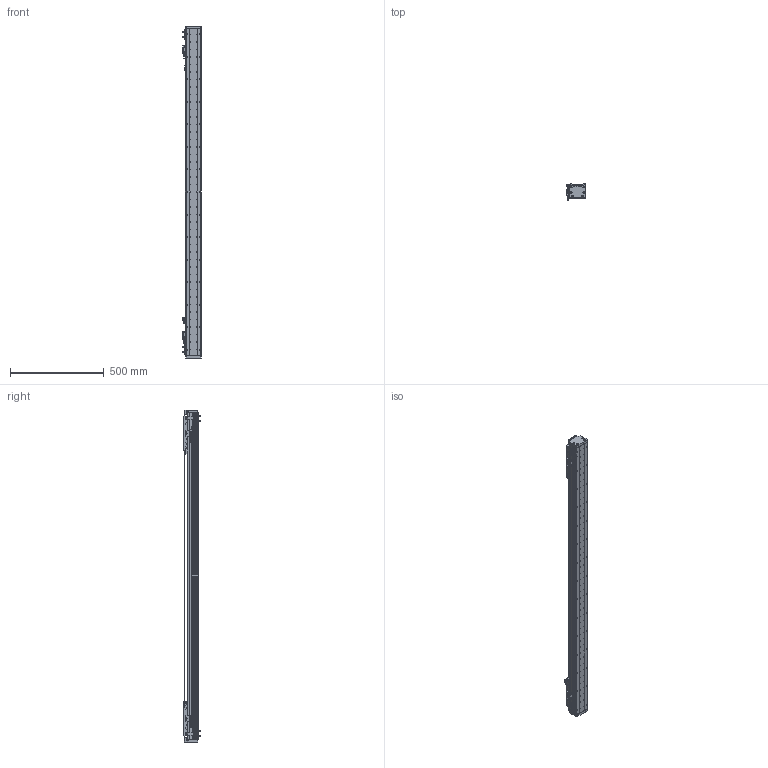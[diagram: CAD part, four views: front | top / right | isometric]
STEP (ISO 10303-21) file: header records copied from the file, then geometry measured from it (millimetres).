
FILE_DESCRIPTION (( 'STEP AP203' ), '1' );
FILE_NAME ('DA-A82-2-B2-T1320-C010-0.2 眻盄萇儂.STEP', '2025-08-13T02:34:42', ( '' ), ( '' ), 'SwSTEP 2.0', 'SolidWorks 2019', '' );
FILE_SCHEMA (( 'CONFIG_CONTROL_DESIGN' ));
Length unit declared in the file: millimetre
Products named in the file (29): 复件 DA82-GYP-ZJ-00 中间光电感应片^DA-A82-B2-T-C010-0.2-N 直线电机; 复件 六角薄螺母 M3^DA-A82-B2-T-C010-0.2-N 直线电机; AU82-M-00 珨极趙賑雄怢啣-1; 复件 DKW-GJ-XJ-00 防撞橡胶^DA-A82-B2-T-C010-0.2-N 直线电机; 复件 DA82-GDZ-ZJ-00 中间光电固定座^DA-A82-B2-T-C010-0.2-N 直线电机; AU82-M 幗紩賑怢-1; 复件 纯铜油杯 6x6mm^AU82-M 滚珠滑台; 复件 复件 17517-0000-004-00  钢带压块^DA-A82-B2-T-C010-0.2-N 直线电机(默认); IU-AU82-L 菁釱絳寢; 复件 复件 17517-0000-003-00 钢带拉块^DA-A82-B2-T-C010-0.2-N 直线电机; AU82-M-00 珨极趙賑雄怢啣; DA-A60-GYP-DMT-00 光电感应片^DA-A82-B2-T-C010-0.2-N 直线电机(默认); 复件 复件 17517-0000-002-00 端板^DA-A82-B2-T-C010-0.2-N 直线电机; 葩璃 PM-T45^DA-A82-B2-T-C010-0.2-N 眻盄萇儂; AU82-HT-M-00 賑雄怢啣; 葩璃 DA82-B2-DP-00 結え^AU82-M 幗紩賑怢; 葩璃 DMT-010 1米m 0.2M^DA-A82-B2-T-C010-0.2-N 眻盄萇儂; 复件 复件 复件 DA82 钢带盖板^DA-A82-B2-T-C010-0.2-N 直线电机(默认); AU82-M 幗紩賑怢; 复件 XD-U-02  磁栅尺^DA-A82-B2-T-C010-0.2-N 直线电机; 复件 BKM02-W040-C1-TP-DA-3.0 直线电机动子^DA-A82-B2-T-C010-0.2-N 直线电机; DA-A82-2-B2-T1320-C010-0.2 眻盄萇儂; 葩璃 BKM01-W040-TRL^DA-A82-B2-T-C010-0.2-N 眻盄萇儂; 复件 DA95-B2-GT-00 滑块钢轨^AU82-M-00 一体化滑动台板; 复件 DA95-GT-T-00 底座钢轨^IU-AU82-L 底座导轨; IU-AU82-L-00 菁釱(L1740); 葩璃 PM-L25^DA-A82-B2-T-C010-0.2-N 眻盄萇儂; 复件 复件 DA82-XJ-00 缓冲橡胶^DA-A82-B2-T-C010-0.2-N 直线电机; 复件 DA60-DMT-DTJ-00 读数头支架^DA-A82-B2-T-C010-0.2-N 直线电机
Assembly tree (61 placements, depth 4):
  DA-A82-2-B2-T1320-C010-0.2 眻盄萇儂
    IU-AU82-L 菁釱絳寢
      IU-AU82-L-00 菁釱(L1740)
      复件 DA95-GT-T-00 底座钢轨^IU-AU82-L 底座导轨  x2
    AU82-M 幗紩賑怢
      AU82-M-00 珨极趙賑雄怢啣
        AU82-HT-M-00 賑雄怢啣
        复件 DA95-B2-GT-00 滑块钢轨^AU82-M-00 一体化滑动台板  x4
      葩璃 DA82-B2-DP-00 結え^AU82-M 幗紩賑怢  x2
      复件 纯铜油杯 6x6mm^AU82-M 滚珠滑台  x2
    AU82-M 幗紩賑怢-1
      AU82-M-00 珨极趙賑雄怢啣-1
        AU82-HT-M-00 賑雄怢啣
        复件 DA95-B2-GT-00 滑块钢轨^AU82-M-00 一体化滑动台板  x4
      葩璃 DA82-B2-DP-00 結え^AU82-M 幗紩賑怢  x2
      复件 纯铜油杯 6x6mm^AU82-M 滚珠滑台  x2
    复件 BKM02-W040-C1-TP-DA-3.0 直线电机动子^DA-A82-B2-T-C010-0.2-N 直线电机  x2
    复件 DA60-DMT-DTJ-00 读数头支架^DA-A82-B2-T-C010-0.2-N 直线电机  x2
    葩璃 DMT-010 1米m 0.2M^DA-A82-B2-T-C010-0.2-N 眻盄萇儂  x2
    DA-A60-GYP-DMT-00 光电感应片^DA-A82-B2-T-C010-0.2-N 直线电机(默认)  x2
    复件 DA82-GDZ-ZJ-00 中间光电固定座^DA-A82-B2-T-C010-0.2-N 直线电机
    葩璃 PM-L25^DA-A82-B2-T-C010-0.2-N 眻盄萇儂
    复件 DA82-GYP-ZJ-00 中间光电感应片^DA-A82-B2-T-C010-0.2-N 直线电机
    复件 DKW-GJ-XJ-00 防撞橡胶^DA-A82-B2-T-C010-0.2-N 直线电机
    复件 复件 17517-0000-003-00 钢带拉块^DA-A82-B2-T-C010-0.2-N 直线电机  x2
    复件 复件 DA82-XJ-00 缓冲橡胶^DA-A82-B2-T-C010-0.2-N 直线电机  x2
    复件 复件 17517-0000-004-00  钢带压块^DA-A82-B2-T-C010-0.2-N 直线电机(默认)  x2
    复件 复件 17517-0000-002-00 端板^DA-A82-B2-T-C010-0.2-N 直线电机  x2
    复件 复件 复件 DA82 钢带盖板^DA-A82-B2-T-C010-0.2-N 直线电机(默认)
    葩璃 BKM01-W040-TRL^DA-A82-B2-T-C010-0.2-N 眻盄萇儂
    葩璃 PM-T45^DA-A82-B2-T-C010-0.2-N 眻盄萇儂  x4
    复件 XD-U-02  磁栅尺^DA-A82-B2-T-C010-0.2-N 直线电机
    复件 六角薄螺母 M3^DA-A82-B2-T-C010-0.2-N 直线电机  x8
Bounding box: 98.95 x 87.2 x 1768 mm (x, y, z)
Volume: 5502900.3 mm3; surface area: 1642374.8 mm2
Topology: 70 solids, 118 shells, 3459 faces, 8969 edges, 5582 vertices
Faces by surface type: cylinder 1603, plane 1364, cone 456, bspline 16, torus 16, sphere 4
Entity records: 73385 total; most frequent: CARTESIAN_POINT 16441, DIRECTION 11363, ORIENTED_EDGE 10720, EDGE_CURVE 5360, AXIS2_PLACEMENT_3D 4339, VERTEX_POINT 3486, EDGE_LOOP 2726, VECTOR 2685
